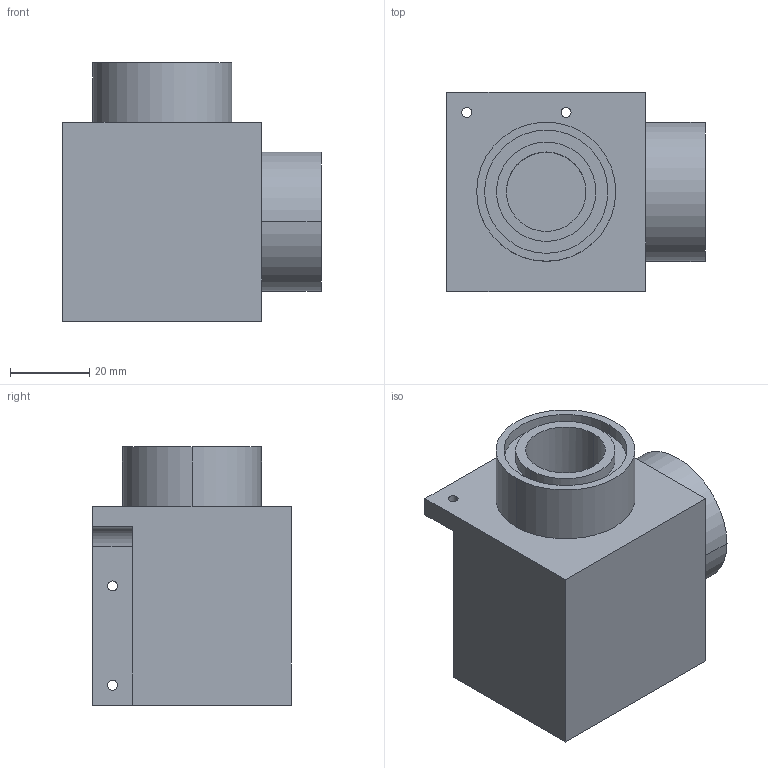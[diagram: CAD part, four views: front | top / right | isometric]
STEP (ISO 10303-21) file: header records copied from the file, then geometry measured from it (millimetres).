
FILE_DESCRIPTION (( 'STEP AP214' ), '1' );
FILE_NAME ('2026_3_4_エルボーブロック.STEP', '2026-03-27T07:05:28', ( '' ), ( '' ), 'SwSTEP 2.0', 'SolidWorks 2025', '' );
FILE_SCHEMA (( 'AUTOMOTIVE_DESIGN' ));
Length unit declared in the file: millimetre
Products named in the file (1): 2026_3_4_エルボーブロック
Bounding box: 65 x 50 x 65 mm (x, y, z)
Volume: 110809.7 mm3; surface area: 23569 mm2
Topology: 1 solids, 1 shells, 41 faces, 96 edges, 63 vertices
Faces by surface type: cylinder 25, plane 16
Entity records: 1480 total; most frequent: CARTESIAN_POINT 305, DIRECTION 226, ORIENTED_EDGE 192, EDGE_CURVE 96, AXIS2_PLACEMENT_3D 90, VERTEX_POINT 63, EDGE_LOOP 57, CIRCLE 48
